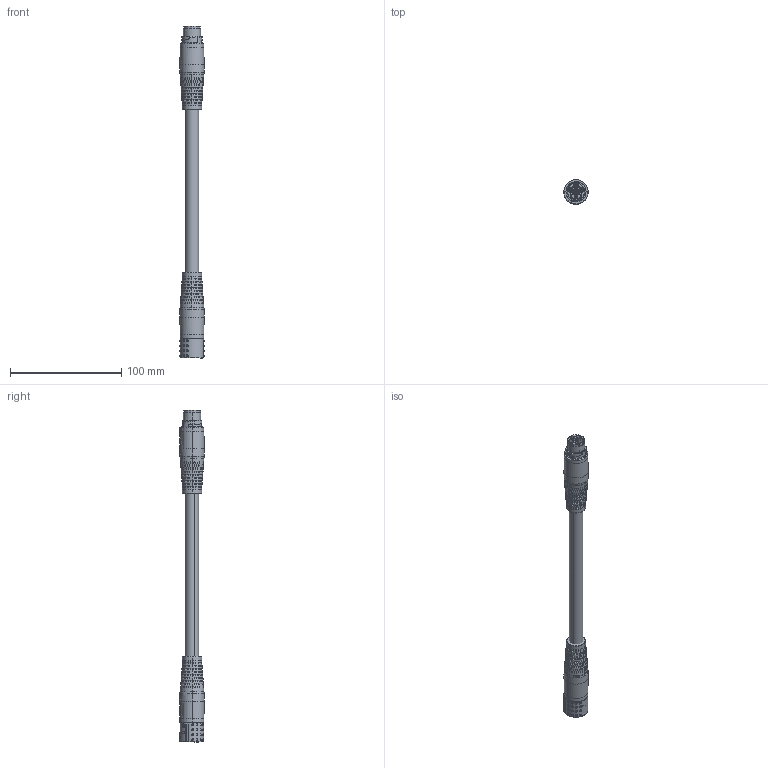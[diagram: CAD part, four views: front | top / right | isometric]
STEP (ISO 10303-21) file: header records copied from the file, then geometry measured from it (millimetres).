
FILE_DESCRIPTION (( 'STEP AP214' ), '1' );
FILE_NAME ('W-TEC 15M STI-BU 4x.STEP', '2021-07-15T15:42:50', ( '' ), ( '' ), 'SwSTEP 2.0', 'SolidWorks 2021', '' );
FILE_SCHEMA (( 'AUTOMOTIVE_DESIGN' ));
Length unit declared in the file: millimetre
Products named in the file (1): W-TEC 15M STI-BU 4x
Bounding box: 21.76 x 21.83 x 298 mm (x, y, z)
Surface area: 25156.2 mm2 (no closed solid volume)
Topology: 0 solids, 9 shells, 1395 faces, 3866 edges, 2437 vertices
Faces by surface type: bspline 611, plane 435, cylinder 249, cone 84, torus 16
Entity records: 87982 total; most frequent: CARTESIAN_POINT 44245, ORIENTED_EDGE 7360, DIRECTION 4552, EDGE_CURVE 3743, VERTEX_POINT 2437, AXIS2_PLACEMENT_3D 1727, EDGE_LOOP 1491, B_SPLINE_CURVE_WITH_KNOTS 1406
